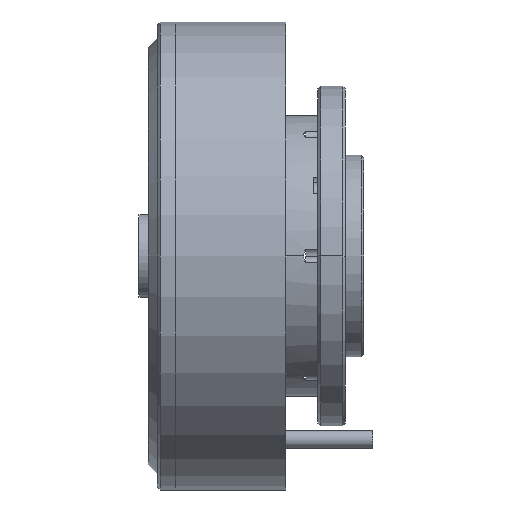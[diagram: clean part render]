
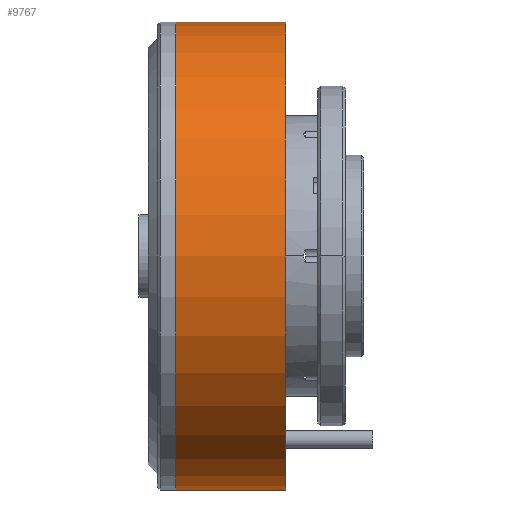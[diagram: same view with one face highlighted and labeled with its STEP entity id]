
A CAD part, left-side view. The second image highlights one B-rep face of the part: STEP entity #9767.
In plain terms, the highlighted cylindrical face has radius 25.5 mm (diameter 51 mm), a partial arc.
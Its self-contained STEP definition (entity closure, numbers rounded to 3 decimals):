
#1280 = EDGE_CURVE ( 'NONE', #7010, #13689, #9165, .T. ) ;
#1641 = CARTESIAN_POINT ( 'NONE',  ( 0., 11.5, 0. ) ) ;
#2054 = VECTOR ( 'NONE', #15189, 1000. ) ;
#2158 = DIRECTION ( 'NONE',  ( 0., -1., 0. ) ) ;
#2428 = CARTESIAN_POINT ( 'NONE',  ( 0., -0.5, 25.5 ) ) ;
#3414 = EDGE_CURVE ( 'NONE', #3733, #7010, #14937, .T. ) ;
#3432 = LINE ( 'NONE', #8728, #6646 ) ;
#3733 = VERTEX_POINT ( 'NONE', #15624 ) ;
#5276 = AXIS2_PLACEMENT_3D ( 'NONE', #1641, #9322, #5311 ) ;
#5311 = DIRECTION ( 'NONE',  ( 0., 0., -1. ) ) ;
#5680 = DIRECTION ( 'NONE',  ( 0., 0., -1. ) ) ;
#6646 = VECTOR ( 'NONE', #2158, 1000. ) ;
#7010 = VERTEX_POINT ( 'NONE', #2428 ) ;
#8230 = ORIENTED_EDGE ( 'NONE', *, *, #8672, .T. ) ;
#8672 = EDGE_CURVE ( 'NONE', #3733, #12119, #15878, .T. ) ;
#8715 = ORIENTED_EDGE ( 'NONE', *, *, #1280, .F. ) ;
#8728 = CARTESIAN_POINT ( 'NONE',  ( 0., -0.5, -25.5 ) ) ;
#8921 = ORIENTED_EDGE ( 'NONE', *, *, #14390, .T. ) ;
#9165 = CIRCLE ( 'NONE', #10528, 25.5 ) ;
#9322 = DIRECTION ( 'NONE',  ( 0., -1., 0. ) ) ;
#9674 = ORIENTED_EDGE ( 'NONE', *, *, #3414, .F. ) ;
#9767 = ADVANCED_FACE ( 'NONE', ( #15470 ), #12671, .T. ) ;
#10528 = AXIS2_PLACEMENT_3D ( 'NONE', #12171, #12429, #5680 ) ;
#10645 = AXIS2_PLACEMENT_3D ( 'NONE', #11651, #11476, #14041 ) ;
#11476 = DIRECTION ( 'NONE',  ( 0., -1., 0. ) ) ;
#11651 = CARTESIAN_POINT ( 'NONE',  ( 0., -0.5, 0. ) ) ;
#12119 = VERTEX_POINT ( 'NONE', #13813 ) ;
#12171 = CARTESIAN_POINT ( 'NONE',  ( 0., -0.5, 0. ) ) ;
#12429 = DIRECTION ( 'NONE',  ( 0., -1., 0. ) ) ;
#12540 = EDGE_LOOP ( 'NONE', ( #9674, #8230, #8921, #8715 ) ) ;
#12671 = CYLINDRICAL_SURFACE ( 'NONE', #10645, 25.5 ) ;
#13646 = CARTESIAN_POINT ( 'NONE',  ( 0., -0.5, 25.5 ) ) ;
#13689 = VERTEX_POINT ( 'NONE', #16585 ) ;
#13813 = CARTESIAN_POINT ( 'NONE',  ( 0., 11.5, -25.5 ) ) ;
#14041 = DIRECTION ( 'NONE',  ( 0., 0., -1. ) ) ;
#14390 = EDGE_CURVE ( 'NONE', #12119, #13689, #3432, .T. ) ;
#14937 = LINE ( 'NONE', #13646, #2054 ) ;
#15189 = DIRECTION ( 'NONE',  ( 0., -1., 0. ) ) ;
#15470 = FACE_OUTER_BOUND ( 'NONE', #12540, .T. ) ;
#15624 = CARTESIAN_POINT ( 'NONE',  ( 0., 11.5, 25.5 ) ) ;
#15878 = CIRCLE ( 'NONE', #5276, 25.5 ) ;
#16585 = CARTESIAN_POINT ( 'NONE',  ( 0., -0.5, -25.5 ) ) ;
